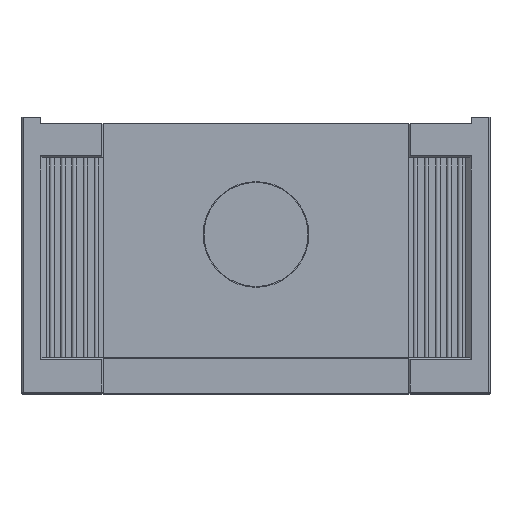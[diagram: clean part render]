
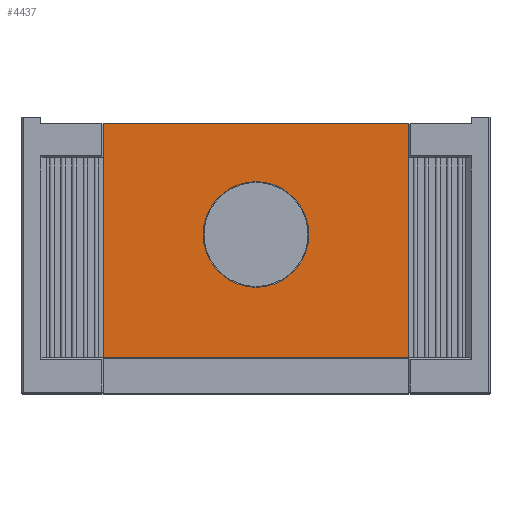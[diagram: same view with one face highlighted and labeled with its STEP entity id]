
A CAD part, top view. The second image highlights one B-rep face of the part: STEP entity #4437.
In plain terms, the highlighted planar face has unit normal (0, 0, 1).
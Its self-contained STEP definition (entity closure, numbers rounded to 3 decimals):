
#4437 = ADVANCED_FACE( '', ( #9189, #9190 ), #9191, .T. );
#9189 = FACE_OUTER_BOUND( '', #14462, .T. );
#9190 = FACE_BOUND( '', #14463, .T. );
#9191 = PLANE( '', #14464 );
#14462 = EDGE_LOOP( '', ( #29253, #29254, #29255, #29256 ) );
#14463 = EDGE_LOOP( '', ( #29257 ) );
#14464 = AXIS2_PLACEMENT_3D( '', #29258, #29259, #29260 );
#29253 = ORIENTED_EDGE( '', *, *, #37598, .F. );
#29254 = ORIENTED_EDGE( '', *, *, #35938, .F. );
#29255 = ORIENTED_EDGE( '', *, *, #35312, .T. );
#29256 = ORIENTED_EDGE( '', *, *, #37427, .T. );
#29257 = ORIENTED_EDGE( '', *, *, #37599, .T. );
#29258 = CARTESIAN_POINT( '', ( -343., -15., 1618. ) );
#29259 = DIRECTION( '', ( 0., 0., 1. ) );
#29260 = DIRECTION( '', ( 1., 0., 0. ) );
#35312 = EDGE_CURVE( '', #43137, #43135, #43138, .T. );
#35938 = EDGE_CURVE( '', #43137, #44018, #44020, .T. );
#37427 = EDGE_CURVE( '', #43135, #45791, #45794, .T. );
#37598 = EDGE_CURVE( '', #44018, #45791, #45972, .T. );
#37599 = EDGE_CURVE( '', #45973, #45973, #45974, .T. );
#43135 = VERTEX_POINT( '', #57362 );
#43137 = VERTEX_POINT( '', #57365 );
#43138 = LINE( '', #57366, #57367 );
#44018 = VERTEX_POINT( '', #59923 );
#44020 = LINE( '', #59926, #59927 );
#45791 = VERTEX_POINT( '', #62990 );
#45794 = LINE( '', #62994, #62995 );
#45972 = LINE( '', #63336, #63337 );
#45973 = VERTEX_POINT( '', #63338 );
#45974 = CIRCLE( '', #63339, 118.469 );
#57362 = CARTESIAN_POINT( '', ( -343., -539.683, 1618. ) );
#57365 = CARTESIAN_POINT( '', ( -343., -15., 1618. ) );
#57366 = CARTESIAN_POINT( '', ( -343., -15., 1618. ) );
#57367 = VECTOR( '', #66153, 1000. );
#59923 = CARTESIAN_POINT( '', ( 343., -15., 1618. ) );
#59926 = CARTESIAN_POINT( '', ( -343., -15., 1618. ) );
#59927 = VECTOR( '', #66445, 1000. );
#62990 = CARTESIAN_POINT( '', ( 343., -539.683, 1618. ) );
#62994 = CARTESIAN_POINT( '', ( -343., -539.683, 1618. ) );
#62995 = VECTOR( '', #67493, 1000. );
#63336 = CARTESIAN_POINT( '', ( 343., -15., 1618. ) );
#63337 = VECTOR( '', #67569, 1000. );
#63338 = CARTESIAN_POINT( '', ( 118.469, -263.1, 1618. ) );
#63339 = AXIS2_PLACEMENT_3D( '', #67570, #67571, #67572 );
#66153 = DIRECTION( '', ( 0., -1., 0. ) );
#66445 = DIRECTION( '', ( 1., 0., 0. ) );
#67493 = DIRECTION( '', ( 1., 0., 0. ) );
#67569 = DIRECTION( '', ( 0., -1., 0. ) );
#67570 = CARTESIAN_POINT( '', ( 0., -263.1, 1618. ) );
#67571 = DIRECTION( '', ( 0., 0., -1. ) );
#67572 = DIRECTION( '', ( 1., 0., 0. ) );
